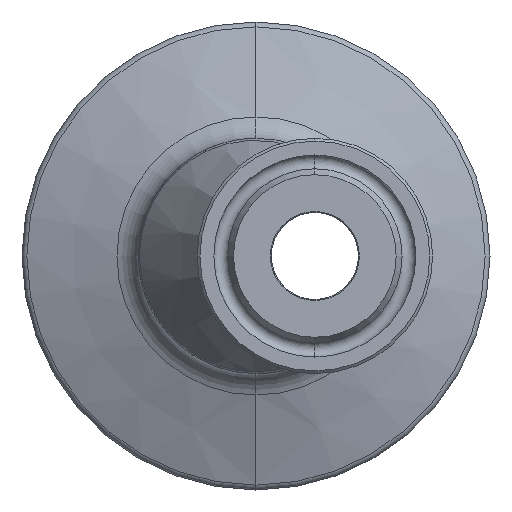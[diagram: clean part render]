
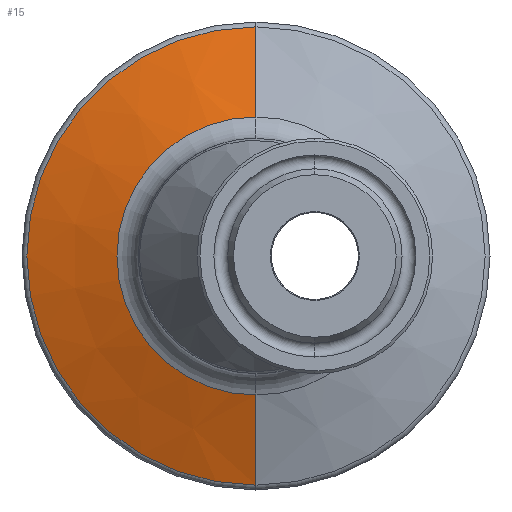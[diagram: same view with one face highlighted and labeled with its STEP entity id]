
A CAD part, left-side view. The second image highlights one B-rep face of the part: STEP entity #15.
In plain terms, the highlighted conical face has half-angle 70 degrees and reference radius 15.003 mm.
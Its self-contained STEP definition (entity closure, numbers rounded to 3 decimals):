
#15 = ADVANCED_FACE ( 'NONE', ( #825 ), #923, .T. ) ;
#105 = DIRECTION ( 'NONE',  ( -1., 0., 0. ) ) ;
#158 = ORIENTED_EDGE ( 'NONE', *, *, #2458, .F. ) ;
#163 = LINE ( 'NONE', #743, #2191 ) ;
#169 = DIRECTION ( 'NONE',  ( -1., 0., 0. ) ) ;
#173 = AXIS2_PLACEMENT_3D ( 'NONE', #1314, #1123, #1868 ) ;
#217 = EDGE_CURVE ( 'NONE', #2352, #1806, #163, .T. ) ;
#393 = LINE ( 'NONE', #899, #1006 ) ;
#574 = CARTESIAN_POINT ( 'NONE',  ( 85.858, 0., -24.724 ) ) ;
#649 = VERTEX_POINT ( 'NONE', #1029 ) ;
#690 = CARTESIAN_POINT ( 'NONE',  ( 85.858, 0., 24.724 ) ) ;
#743 = CARTESIAN_POINT ( 'NONE',  ( 82.32, 0., 15.003 ) ) ;
#825 = FACE_OUTER_BOUND ( 'NONE', #1919, .T. ) ;
#844 = EDGE_CURVE ( 'NONE', #2352, #649, #898, .T. ) ;
#898 = CIRCLE ( 'NONE', #1461, 15.003 ) ;
#899 = CARTESIAN_POINT ( 'NONE',  ( 82.32, 0., -15.003 ) ) ;
#923 = CONICAL_SURFACE ( 'NONE', #173, 15.003, 1.222 ) ;
#1006 = VECTOR ( 'NONE', #1687, 1000. ) ;
#1029 = CARTESIAN_POINT ( 'NONE',  ( 82.32, 0., -15.003 ) ) ;
#1123 = DIRECTION ( 'NONE',  ( 1., 0., 0. ) ) ;
#1275 = EDGE_CURVE ( 'NONE', #1806, #1893, #1732, .T. ) ;
#1280 = CARTESIAN_POINT ( 'NONE',  ( 85.858, 0., 0. ) ) ;
#1297 = ORIENTED_EDGE ( 'NONE', *, *, #1275, .T. ) ;
#1314 = CARTESIAN_POINT ( 'NONE',  ( 82.32, 0., 0. ) ) ;
#1337 = CARTESIAN_POINT ( 'NONE',  ( 82.32, 0., 0. ) ) ;
#1461 = AXIS2_PLACEMENT_3D ( 'NONE', #1337, #169, #1537 ) ;
#1472 = DIRECTION ( 'NONE',  ( 0., 0., 1. ) ) ;
#1537 = DIRECTION ( 'NONE',  ( 0., 0., 1. ) ) ;
#1687 = DIRECTION ( 'NONE',  ( 0.342, 0., -0.94 ) ) ;
#1710 = AXIS2_PLACEMENT_3D ( 'NONE', #1280, #105, #1472 ) ;
#1732 = CIRCLE ( 'NONE', #1710, 24.724 ) ;
#1806 = VERTEX_POINT ( 'NONE', #690 ) ;
#1868 = DIRECTION ( 'NONE',  ( 0., 0., -1. ) ) ;
#1893 = VERTEX_POINT ( 'NONE', #574 ) ;
#1919 = EDGE_LOOP ( 'NONE', ( #2280, #2228, #1297, #158 ) ) ;
#2058 = CARTESIAN_POINT ( 'NONE',  ( 82.32, 0., 15.003 ) ) ;
#2118 = DIRECTION ( 'NONE',  ( 0.342, 0., 0.94 ) ) ;
#2191 = VECTOR ( 'NONE', #2118, 1000. ) ;
#2228 = ORIENTED_EDGE ( 'NONE', *, *, #217, .T. ) ;
#2280 = ORIENTED_EDGE ( 'NONE', *, *, #844, .F. ) ;
#2352 = VERTEX_POINT ( 'NONE', #2058 ) ;
#2458 = EDGE_CURVE ( 'NONE', #649, #1893, #393, .T. ) ;
